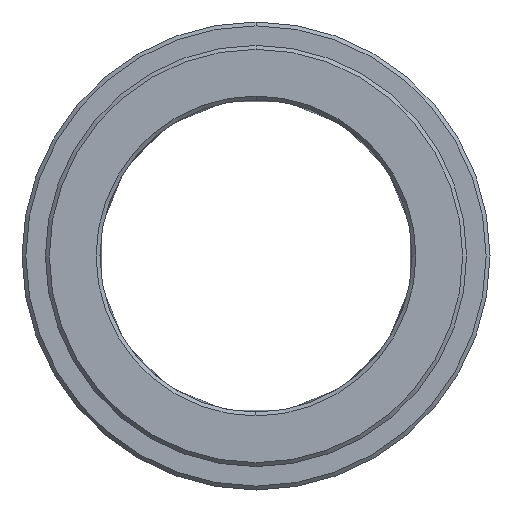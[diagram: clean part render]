
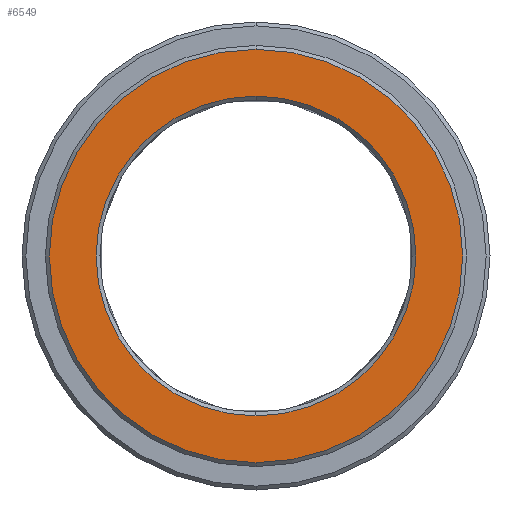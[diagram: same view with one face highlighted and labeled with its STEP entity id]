
A CAD part, left-side view. The second image highlights one B-rep face of the part: STEP entity #6549.
In plain terms, the highlighted planar face has unit normal (-1, 0, 0).
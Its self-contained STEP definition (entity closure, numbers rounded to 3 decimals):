
#4410=CARTESIAN_POINT('',(-10.,0.,
0.));
#4411=DIRECTION('',(1.,0.,0.));
#4412=DIRECTION('',(0.,0.,1.));
#4413=AXIS2_PLACEMENT_3D('',#4410,#4411,#4412);
#4415=CARTESIAN_POINT('',(-10.,0.,
0.));
#4416=DIRECTION('',(1.,0.,0.));
#4417=DIRECTION('',(0.,0.,-1.));
#4418=AXIS2_PLACEMENT_3D('',#4415,#4416,#4417);
#4420=CARTESIAN_POINT('',(-10.,0.,
0.));
#4421=DIRECTION('',(1.,0.,0.));
#4422=DIRECTION('',(0.,0.,1.));
#4423=AXIS2_PLACEMENT_3D('',#4420,#4421,#4422);
#4425=CARTESIAN_POINT('',(-10.,0.,
0.));
#4426=DIRECTION('',(1.,0.,0.));
#4427=DIRECTION('',(0.,0.,-1.));
#4428=AXIS2_PLACEMENT_3D('',#4425,#4426,#4427);
#4706=CARTESIAN_POINT('',(-10.,0.,20.5));
#4707=CARTESIAN_POINT('',(-10.,0.,
-20.5));
#4708=VERTEX_POINT('',#4706);
#4709=VERTEX_POINT('',#4707);
#4714=CARTESIAN_POINT('',(-10.,0.,26.5));
#4715=CARTESIAN_POINT('',(-10.,0.,
-26.5));
#4716=VERTEX_POINT('',#4714);
#4717=VERTEX_POINT('',#4715);
#6534=CARTESIAN_POINT('',(-10.,0.,0.));
#6535=DIRECTION('',(1.,0.,0.));
#6536=DIRECTION('',(0.,0.,1.));
#6537=AXIS2_PLACEMENT_3D('',#6534,#6535,#6536);
#6538=PLANE('',#6537);
#6539=ORIENTED_EDGE('',*,*,#6501,.T.);
#6540=ORIENTED_EDGE('',*,*,#6516,.T.);
#6541=EDGE_LOOP('',(#6539,#6540));
#6542=FACE_OUTER_BOUND('',#6541,.F.);
#6544=ORIENTED_EDGE('',*,*,#6543,.F.);
#6546=ORIENTED_EDGE('',*,*,#6545,.F.);
#6547=EDGE_LOOP('',(#6544,#6546));
#6548=FACE_BOUND('',#6547,.F.);
#6549=ADVANCED_FACE('',(#6542,#6548),#6538,.F.);
#4414=CIRCLE('',#4413,26.5);
#4419=CIRCLE('',#4418,26.5);
#4424=CIRCLE('',#4423,20.5);
#4429=CIRCLE('',#4428,20.5);
#6501=EDGE_CURVE('',#4716,#4717,#4414,.T.);
#6516=EDGE_CURVE('',#4717,#4716,#4419,.T.);
#6543=EDGE_CURVE('',#4708,#4709,#4424,.T.);
#6545=EDGE_CURVE('',#4709,#4708,#4429,.T.);
